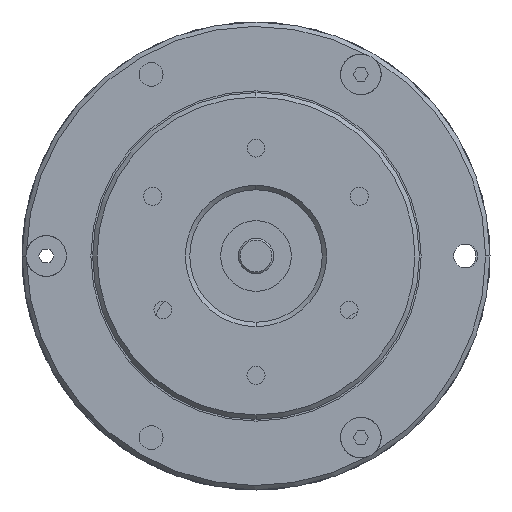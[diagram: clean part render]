
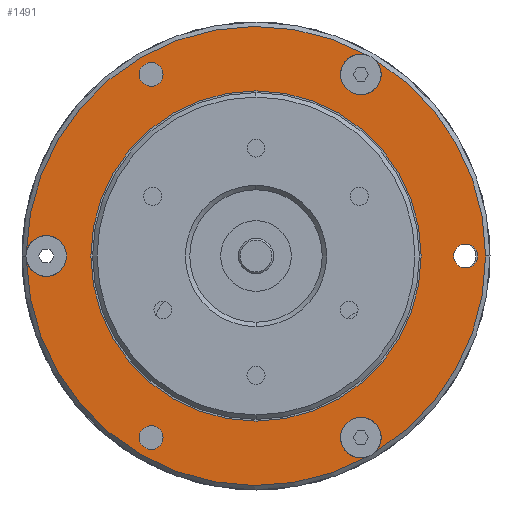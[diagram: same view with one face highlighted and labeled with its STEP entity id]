
A CAD part, front view. The second image highlights one B-rep face of the part: STEP entity #1491.
In plain terms, the highlighted planar face has unit normal (0, -1, 0).
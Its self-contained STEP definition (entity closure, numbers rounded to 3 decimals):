
#18 = AXIS2_PLACEMENT_3D ( 'NONE', #2383, #2161, #2076 ) ;
#129 = CARTESIAN_POINT ( 'NONE',  ( 11.875, -13., -20.568 ) ) ;
#178 = VERTEX_POINT ( 'NONE', #1101 ) ;
#517 = CARTESIAN_POINT ( 'NONE',  ( 12.565, -13., 22.762 ) ) ;
#700 = CIRCLE ( 'NONE', #4558, 1.35 ) ;
#819 = CARTESIAN_POINT ( 'NONE',  ( 18.7, -13., 0. ) ) ;
#833 = CARTESIAN_POINT ( 'NONE',  ( 25.1, -13., 0. ) ) ;
#1087 = PLANE ( 'NONE',  #13031 ) ;
#1101 = CARTESIAN_POINT ( 'NONE',  ( 22.4, -13., 0. ) ) ;
#1212 = DIRECTION ( 'NONE',  ( 0., -1., 0. ) ) ;
#1242 = DIRECTION ( 'NONE',  ( 1., 0., 0. ) ) ;
#1352 = ORIENTED_EDGE ( 'NONE', *, *, #9318, .F. ) ;
#1401 = DIRECTION ( 'NONE',  ( 1., 0., 0. ) ) ;
#1468 = CIRCLE ( 'NONE', #18, 18.7 ) ;
#1491 = ADVANCED_FACE ( 'NONE', ( #7955, #14746, #3423, #1859, #2364 ), #1087, .F. ) ;
#1517 = DIRECTION ( 'NONE',  ( 0., -1., 0. ) ) ;
#1659 = CARTESIAN_POINT ( 'NONE',  ( -10.525, -13., 20.568 ) ) ;
#1817 = ORIENTED_EDGE ( 'NONE', *, *, #8670, .T. ) ;
#1859 = FACE_BOUND ( 'NONE', #12397, .T. ) ;
#1874 = DIRECTION ( 'NONE',  ( -1., 0., 0. ) ) ;
#2076 = DIRECTION ( 'NONE',  ( 1., 0., 0. ) ) ;
#2161 = DIRECTION ( 'NONE',  ( 0., 1., 0. ) ) ;
#2191 = EDGE_LOOP ( 'NONE', ( #7982, #12707 ) ) ;
#2288 = DIRECTION ( 'NONE',  ( 0., 1., 0. ) ) ;
#2364 = FACE_OUTER_BOUND ( 'NONE', #7755, .T. ) ;
#2383 = CARTESIAN_POINT ( 'NONE',  ( 0., -13., 0. ) ) ;
#2437 = EDGE_CURVE ( 'NONE', #9057, #14545, #12570, .T. ) ;
#2576 = ORIENTED_EDGE ( 'NONE', *, *, #11230, .F. ) ;
#2637 = DIRECTION ( 'NONE',  ( 1., 0., 0. ) ) ;
#2704 = DIRECTION ( 'NONE',  ( 0., -1., 0. ) ) ;
#2971 = ORIENTED_EDGE ( 'NONE', *, *, #11858, .T. ) ;
#3000 = EDGE_CURVE ( 'NONE', #3408, #6600, #12105, .T. ) ;
#3059 = CIRCLE ( 'NONE', #3306, 26. ) ;
#3071 = CARTESIAN_POINT ( 'NONE',  ( 23.75, -13., 0. ) ) ;
#3306 = AXIS2_PLACEMENT_3D ( 'NONE', #5054, #1517, #2637 ) ;
#3322 = AXIS2_PLACEMENT_3D ( 'NONE', #13430, #9827, #13218 ) ;
#3408 = VERTEX_POINT ( 'NONE', #7003 ) ;
#3423 = FACE_BOUND ( 'NONE', #12139, .T. ) ;
#3586 = AXIS2_PLACEMENT_3D ( 'NONE', #6871, #14795, #5600 ) ;
#3687 = DIRECTION ( 'NONE',  ( 0., -1., 0. ) ) ;
#3735 = DIRECTION ( 'NONE',  ( 0., -1., 0. ) ) ;
#3872 = EDGE_CURVE ( 'NONE', #6600, #3408, #6468, .T. ) ;
#3902 = DIRECTION ( 'NONE',  ( 1., 0., 0. ) ) ;
#4023 = ORIENTED_EDGE ( 'NONE', *, *, #6552, .F. ) ;
#4085 = CIRCLE ( 'NONE', #7938, 1.35 ) ;
#4088 = ORIENTED_EDGE ( 'NONE', *, *, #10112, .F. ) ;
#4286 = AXIS2_PLACEMENT_3D ( 'NONE', #12555, #2288, #1242 ) ;
#4469 = ORIENTED_EDGE ( 'NONE', *, *, #14838, .T. ) ;
#4538 = CIRCLE ( 'NONE', #14649, 26. ) ;
#4558 = AXIS2_PLACEMENT_3D ( 'NONE', #6101, #5114, #14081 ) ;
#4631 = CARTESIAN_POINT ( 'NONE',  ( -25.995, -13., 0.499 ) ) ;
#4734 = DIRECTION ( 'NONE',  ( 0., -1., 0. ) ) ;
#4746 = CARTESIAN_POINT ( 'NONE',  ( -11.875, -13., 20.568 ) ) ;
#4783 = CIRCLE ( 'NONE', #4286, 18.7 ) ;
#4792 = DIRECTION ( 'NONE',  ( 1., 0., 0. ) ) ;
#4965 = CARTESIAN_POINT ( 'NONE',  ( 0., -13., 0. ) ) ;
#5054 = CARTESIAN_POINT ( 'NONE',  ( 0., -13., 0. ) ) ;
#5114 = DIRECTION ( 'NONE',  ( 0., -1., 0. ) ) ;
#5156 = ORIENTED_EDGE ( 'NONE', *, *, #8940, .T. ) ;
#5436 = VERTEX_POINT ( 'NONE', #6046 ) ;
#5600 = DIRECTION ( 'NONE',  ( 1., 0., 0. ) ) ;
#6046 = CARTESIAN_POINT ( 'NONE',  ( 13.43, -13., 22.263 ) ) ;
#6101 = CARTESIAN_POINT ( 'NONE',  ( -11.875, -13., -20.568 ) ) ;
#6106 = CARTESIAN_POINT ( 'NONE',  ( 12.565, -13., -22.762 ) ) ;
#6446 = VERTEX_POINT ( 'NONE', #10033 ) ;
#6468 = CIRCLE ( 'NONE', #3322, 1.35 ) ;
#6552 = EDGE_CURVE ( 'NONE', #9131, #13635, #7888, .T. ) ;
#6600 = VERTEX_POINT ( 'NONE', #1659 ) ;
#6626 = EDGE_CURVE ( 'NONE', #6446, #7105, #3059, .T. ) ;
#6677 = ORIENTED_EDGE ( 'NONE', *, *, #3000, .F. ) ;
#6871 = CARTESIAN_POINT ( 'NONE',  ( 11.875, -13., 20.568 ) ) ;
#6959 = AXIS2_PLACEMENT_3D ( 'NONE', #4965, #2704, #12417 ) ;
#6960 = EDGE_CURVE ( 'NONE', #6446, #10256, #7896, .T. ) ;
#7003 = CARTESIAN_POINT ( 'NONE',  ( -13.225, -13., 20.568 ) ) ;
#7023 = DIRECTION ( 'NONE',  ( 1., 0., 0. ) ) ;
#7105 = VERTEX_POINT ( 'NONE', #12053 ) ;
#7179 = ORIENTED_EDGE ( 'NONE', *, *, #9537, .T. ) ;
#7258 = ORIENTED_EDGE ( 'NONE', *, *, #6626, .T. ) ;
#7361 = CARTESIAN_POINT ( 'NONE',  ( 0., -13., 0. ) ) ;
#7516 = VERTEX_POINT ( 'NONE', #833 ) ;
#7755 = EDGE_LOOP ( 'NONE', ( #1352, #2971, #4023, #7179, #10109, #7258, #1817 ) ) ;
#7888 = CIRCLE ( 'NONE', #10057, 2.3 ) ;
#7896 = CIRCLE ( 'NONE', #14157, 2.3 ) ;
#7924 = CIRCLE ( 'NONE', #6959, 26. ) ;
#7938 = AXIS2_PLACEMENT_3D ( 'NONE', #11686, #12734, #10319 ) ;
#7955 = FACE_BOUND ( 'NONE', #2191, .T. ) ;
#7982 = ORIENTED_EDGE ( 'NONE', *, *, #8279, .F. ) ;
#8031 = CARTESIAN_POINT ( 'NONE',  ( 0., -13., 0. ) ) ;
#8138 = CIRCLE ( 'NONE', #8624, 26. ) ;
#8221 = AXIS2_PLACEMENT_3D ( 'NONE', #3071, #10023, #1874 ) ;
#8252 = VERTEX_POINT ( 'NONE', #517 ) ;
#8279 = EDGE_CURVE ( 'NONE', #14545, #9057, #700, .T. ) ;
#8624 = AXIS2_PLACEMENT_3D ( 'NONE', #12798, #11663, #4792 ) ;
#8670 = EDGE_CURVE ( 'NONE', #7105, #5436, #8138, .T. ) ;
#8741 = DIRECTION ( 'NONE',  ( 0., 0., -1. ) ) ;
#8940 = EDGE_CURVE ( 'NONE', #11280, #14293, #4783, .T. ) ;
#9057 = VERTEX_POINT ( 'NONE', #10504 ) ;
#9131 = VERTEX_POINT ( 'NONE', #10891 ) ;
#9298 = ORIENTED_EDGE ( 'NONE', *, *, #3872, .F. ) ;
#9318 = EDGE_CURVE ( 'NONE', #8252, #5436, #11786, .T. ) ;
#9437 = CARTESIAN_POINT ( 'NONE',  ( -11.875, -13., -20.568 ) ) ;
#9502 = CARTESIAN_POINT ( 'NONE',  ( -13.225, -13., -20.568 ) ) ;
#9537 = EDGE_CURVE ( 'NONE', #9131, #10256, #7924, .T. ) ;
#9827 = DIRECTION ( 'NONE',  ( 0., -1., 0. ) ) ;
#10023 = DIRECTION ( 'NONE',  ( 0., -1., 0. ) ) ;
#10033 = CARTESIAN_POINT ( 'NONE',  ( 13.43, -13., -22.263 ) ) ;
#10057 = AXIS2_PLACEMENT_3D ( 'NONE', #12749, #1212, #7023 ) ;
#10109 = ORIENTED_EDGE ( 'NONE', *, *, #6960, .F. ) ;
#10112 = EDGE_CURVE ( 'NONE', #7516, #178, #4085, .T. ) ;
#10256 = VERTEX_POINT ( 'NONE', #6106 ) ;
#10319 = DIRECTION ( 'NONE',  ( -1., 0., 0. ) ) ;
#10504 = CARTESIAN_POINT ( 'NONE',  ( -10.525, -13., -20.568 ) ) ;
#10632 = CIRCLE ( 'NONE', #8221, 1.35 ) ;
#10645 = AXIS2_PLACEMENT_3D ( 'NONE', #9437, #3687, #12890 ) ;
#10891 = CARTESIAN_POINT ( 'NONE',  ( -25.995, -13., -0.499 ) ) ;
#11230 = EDGE_CURVE ( 'NONE', #178, #7516, #10632, .T. ) ;
#11280 = VERTEX_POINT ( 'NONE', #12661 ) ;
#11400 = EDGE_LOOP ( 'NONE', ( #6677, #9298 ) ) ;
#11663 = DIRECTION ( 'NONE',  ( 0., -1., 0. ) ) ;
#11686 = CARTESIAN_POINT ( 'NONE',  ( 23.75, -13., 0. ) ) ;
#11786 = CIRCLE ( 'NONE', #3586, 2.3 ) ;
#11858 = EDGE_CURVE ( 'NONE', #8252, #13635, #4538, .T. ) ;
#12053 = CARTESIAN_POINT ( 'NONE',  ( 26., -13., 0. ) ) ;
#12105 = CIRCLE ( 'NONE', #12829, 1.35 ) ;
#12139 = EDGE_LOOP ( 'NONE', ( #2576, #4088 ) ) ;
#12397 = EDGE_LOOP ( 'NONE', ( #5156, #4469 ) ) ;
#12417 = DIRECTION ( 'NONE',  ( 1., 0., 0. ) ) ;
#12555 = CARTESIAN_POINT ( 'NONE',  ( 0., -13., 0. ) ) ;
#12570 = CIRCLE ( 'NONE', #10645, 1.35 ) ;
#12661 = CARTESIAN_POINT ( 'NONE',  ( -18.7, -13., 0. ) ) ;
#12707 = ORIENTED_EDGE ( 'NONE', *, *, #2437, .F. ) ;
#12734 = DIRECTION ( 'NONE',  ( 0., -1., 0. ) ) ;
#12749 = CARTESIAN_POINT ( 'NONE',  ( -23.75, -13., 0. ) ) ;
#12798 = CARTESIAN_POINT ( 'NONE',  ( 0., -13., 0. ) ) ;
#12829 = AXIS2_PLACEMENT_3D ( 'NONE', #4746, #13939, #13716 ) ;
#12890 = DIRECTION ( 'NONE',  ( 0.5, 0., 0.866 ) ) ;
#13031 = AXIS2_PLACEMENT_3D ( 'NONE', #8031, #14884, #8741 ) ;
#13218 = DIRECTION ( 'NONE',  ( 0.5, 0., -0.866 ) ) ;
#13430 = CARTESIAN_POINT ( 'NONE',  ( -11.875, -13., 20.568 ) ) ;
#13635 = VERTEX_POINT ( 'NONE', #4631 ) ;
#13716 = DIRECTION ( 'NONE',  ( 0.5, 0., -0.866 ) ) ;
#13939 = DIRECTION ( 'NONE',  ( 0., -1., 0. ) ) ;
#14081 = DIRECTION ( 'NONE',  ( 0.5, 0., 0.866 ) ) ;
#14157 = AXIS2_PLACEMENT_3D ( 'NONE', #129, #4734, #3902 ) ;
#14293 = VERTEX_POINT ( 'NONE', #819 ) ;
#14545 = VERTEX_POINT ( 'NONE', #9502 ) ;
#14649 = AXIS2_PLACEMENT_3D ( 'NONE', #7361, #3735, #1401 ) ;
#14746 = FACE_BOUND ( 'NONE', #11400, .T. ) ;
#14795 = DIRECTION ( 'NONE',  ( 0., -1., 0. ) ) ;
#14838 = EDGE_CURVE ( 'NONE', #14293, #11280, #1468, .T. ) ;
#14884 = DIRECTION ( 'NONE',  ( 0., 1., 0. ) ) ;
